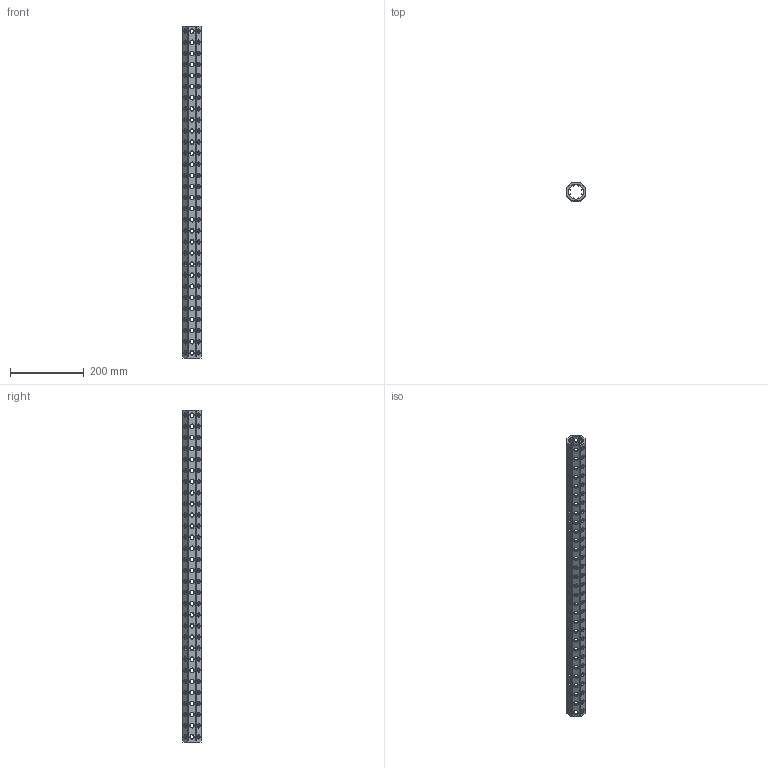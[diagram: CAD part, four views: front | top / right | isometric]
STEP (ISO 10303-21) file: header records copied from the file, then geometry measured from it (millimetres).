
FILE_DESCRIPTION(('CATIA V5 STEP Exchange'),'2;1');
FILE_NAME('U:\Room\唐宝山\EGT002\46-01-010259-01-EGT002-898.stp','2021-08-24T01:10:26+00:00',('none'),('none'),'CATIA Version 5 Release 21 GA (IN-10)','CATIA V5 STEP AP203','none');
FILE_SCHEMA(('CONFIG_CONTROL_DESIGN'));
Products named in the file (1): 46-01-010259-01-EGT002-898
Bounding box: 50 x 50 x 898 mm (x, y, z)
Volume: 639673.7 mm3; surface area: 309388.4 mm2
Topology: 1 solids, 1 shells, 1284 faces, 3546 edges, 2204 vertices
Faces by surface type: cone 720, cylinder 538, plane 26
Entity records: 52649 total; most frequent: CARTESIAN_POINT 21628, ORIENTED_EDGE 7092, DIRECTION 4944, EDGE_CURVE 3546, AXIS2_PLACEMENT_3D 2271, VERTEX_POINT 2204, EDGE_LOOP 1706, VECTOR 1390
